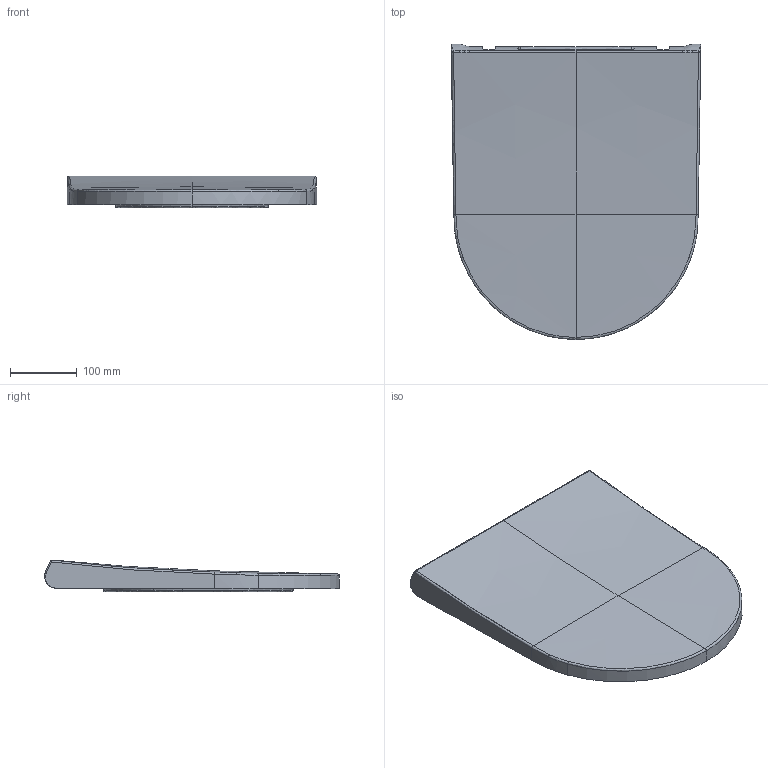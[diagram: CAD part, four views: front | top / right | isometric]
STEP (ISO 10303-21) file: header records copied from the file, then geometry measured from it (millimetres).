
FILE_DESCRIPTION(/* description */ (''),/* implementation_level */ '2;1');
FILE_NAME(/* name */ '002659',/* time_stamp */ '2022-11-04T10:38:09+01:00',/* author */ (''),/* organization */ (''),/* preprocessor_version */ 'ST-DEVELOPER v15',/* originating_system */ '',/* authorisation */ '');
FILE_SCHEMA (('AUTOMOTIVE_DESIGN'));
Length unit declared in the file: millimetre
Products named in the file (1): Document
Bounding box: 373.04 x 441.23 x 47.76 mm (x, y, z)
Surface area: 563966.6 mm2 (no closed solid volume)
Topology: 0 solids, 2 shells, 663 faces, 1874 edges, 1020 vertices
Faces by surface type: bspline 602, plane 61
Entity records: 62314 total; most frequent: CARTESIAN_POINT 51419, ORIENTED_EDGE 3288, EDGE_CURVE 1875, B_SPLINE_CURVE_WITH_KNOTS 1875, VERTEX_POINT 1020, EDGE_LOOP 672, ADVANCED_FACE 663, FACE_OUTER_BOUND 663
